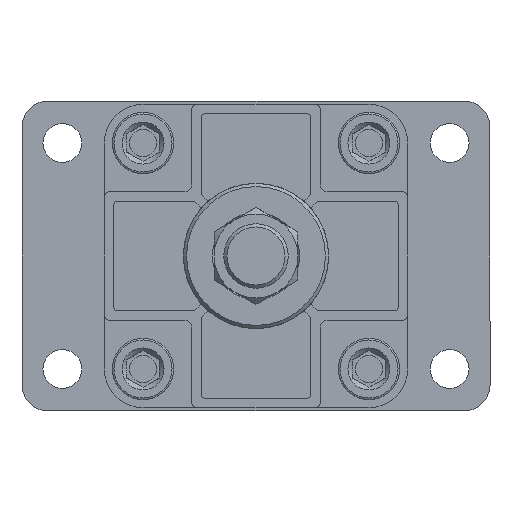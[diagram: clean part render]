
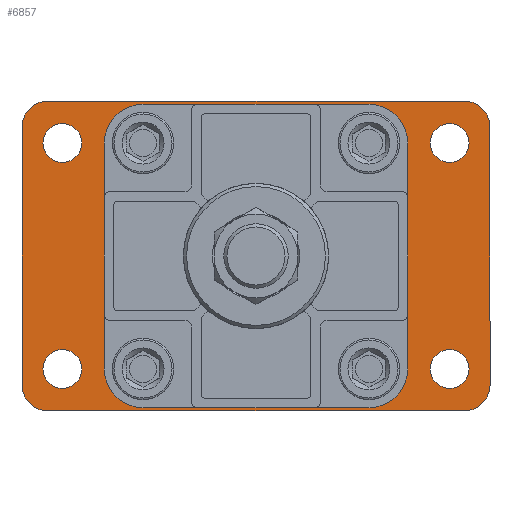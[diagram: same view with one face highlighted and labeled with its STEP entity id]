
A CAD part, front view. The second image highlights one B-rep face of the part: STEP entity #6857.
In plain terms, the highlighted planar face has unit normal (0, -1, 0) as drawn and (0, 1, 0) by its records, which use the part's own axes.
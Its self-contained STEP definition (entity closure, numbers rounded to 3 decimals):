
#594=LINE('',#10380,#984);
#598=LINE('',#10389,#988);
#602=LINE('',#10398,#992);
#604=LINE('',#10402,#994);
#984=VECTOR('',#8807,1000.);
#988=VECTOR('',#8813,1000.);
#992=VECTOR('',#8819,1000.);
#994=VECTOR('',#8823,1000.);
#2223=ORIENTED_EDGE('',*,*,#3000,.F.);
#2224=ORIENTED_EDGE('',*,*,#3001,.T.);
#2225=ORIENTED_EDGE('',*,*,#3002,.T.);
#2226=ORIENTED_EDGE('',*,*,#3003,.T.);
#2227=ORIENTED_EDGE('',*,*,#3004,.T.);
#2228=ORIENTED_EDGE('',*,*,#3005,.F.);
#2229=ORIENTED_EDGE('',*,*,#3006,.F.);
#2230=ORIENTED_EDGE('',*,*,#3007,.F.);
#2231=ORIENTED_EDGE('',*,*,#3008,.F.);
#2232=ORIENTED_EDGE('',*,*,#2973,.F.);
#2233=ORIENTED_EDGE('',*,*,#3009,.T.);
#2234=ORIENTED_EDGE('',*,*,#2983,.F.);
#2235=ORIENTED_EDGE('',*,*,#3010,.T.);
#2236=ORIENTED_EDGE('',*,*,#2981,.F.);
#2237=ORIENTED_EDGE('',*,*,#3011,.T.);
#2238=ORIENTED_EDGE('',*,*,#2977,.F.);
#2239=ORIENTED_EDGE('',*,*,#3012,.T.);
#2973=EDGE_CURVE('',#3483,#3484,#594,.T.);
#2977=EDGE_CURVE('',#3487,#3488,#598,.T.);
#2981=EDGE_CURVE('',#3491,#3492,#602,.T.);
#2983=EDGE_CURVE('',#3493,#3494,#604,.T.);
#3000=EDGE_CURVE('',#3506,#3506,#3778,.F.);
#3001=EDGE_CURVE('',#3507,#3507,#3779,.T.);
#3002=EDGE_CURVE('',#3508,#3508,#3780,.T.);
#3003=EDGE_CURVE('',#3509,#3509,#3781,.T.);
#3004=EDGE_CURVE('',#3510,#3510,#3782,.T.);
#3005=EDGE_CURVE('',#3511,#3511,#3783,.F.);
#3006=EDGE_CURVE('',#3512,#3512,#3784,.F.);
#3007=EDGE_CURVE('',#3513,#3513,#3785,.F.);
#3008=EDGE_CURVE('',#3514,#3514,#3786,.F.);
#3009=EDGE_CURVE('',#3483,#3494,#3787,.F.);
#3010=EDGE_CURVE('',#3493,#3492,#3788,.F.);
#3011=EDGE_CURVE('',#3491,#3488,#3789,.F.);
#3012=EDGE_CURVE('',#3487,#3484,#3790,.F.);
#3483=VERTEX_POINT('',#10379);
#3484=VERTEX_POINT('',#10381);
#3487=VERTEX_POINT('',#10388);
#3488=VERTEX_POINT('',#10390);
#3491=VERTEX_POINT('',#10397);
#3492=VERTEX_POINT('',#10399);
#3493=VERTEX_POINT('',#10403);
#3494=VERTEX_POINT('',#10404);
#3506=VERTEX_POINT('',#10435);
#3507=VERTEX_POINT('',#10437);
#3508=VERTEX_POINT('',#10439);
#3509=VERTEX_POINT('',#10441);
#3510=VERTEX_POINT('',#10443);
#3511=VERTEX_POINT('',#10445);
#3512=VERTEX_POINT('',#10447);
#3513=VERTEX_POINT('',#10449);
#3514=VERTEX_POINT('',#10451);
#3778=CIRCLE('',#7422,24.5);
#3779=CIRCLE('',#7423,5.5);
#3780=CIRCLE('',#7424,5.5);
#3781=CIRCLE('',#7425,5.5);
#3782=CIRCLE('',#7426,5.5);
#3783=CIRCLE('',#7427,6.);
#3784=CIRCLE('',#7428,6.);
#3785=CIRCLE('',#7429,6.);
#3786=CIRCLE('',#7430,6.);
#3787=CIRCLE('',#7431,8.);
#3788=CIRCLE('',#7432,8.);
#3789=CIRCLE('',#7433,8.);
#3790=CIRCLE('',#7434,8.);
#4158=EDGE_LOOP('',(#2223));
#4159=EDGE_LOOP('',(#2224));
#4160=EDGE_LOOP('',(#2225));
#4161=EDGE_LOOP('',(#2226));
#4162=EDGE_LOOP('',(#2227));
#4163=EDGE_LOOP('',(#2228));
#4164=EDGE_LOOP('',(#2229));
#4165=EDGE_LOOP('',(#2230));
#4166=EDGE_LOOP('',(#2231));
#4167=EDGE_LOOP('',(#2232,#2233,#2234,#2235,#2236,#2237,#2238,#2239));
#4578=FACE_BOUND('',#4158,.T.);
#4579=FACE_BOUND('',#4159,.T.);
#4580=FACE_BOUND('',#4160,.T.);
#4581=FACE_BOUND('',#4161,.T.);
#4582=FACE_BOUND('',#4162,.T.);
#4583=FACE_BOUND('',#4163,.T.);
#4584=FACE_BOUND('',#4164,.T.);
#4585=FACE_BOUND('',#4165,.T.);
#4586=FACE_BOUND('',#4166,.T.);
#4587=FACE_BOUND('',#4167,.T.);
#4800=PLANE('',#7421);
#6857=ADVANCED_FACE('',(#4578,#4579,#4580,#4581,#4582,#4583,#4584,#4585,
#4586,#4587),#4800,.F.);
#7421=AXIS2_PLACEMENT_3D('',#10433,#8855,#8856);
#7422=AXIS2_PLACEMENT_3D('',#10434,#8857,#8858);
#7423=AXIS2_PLACEMENT_3D('',#10436,#8859,#8860);
#7424=AXIS2_PLACEMENT_3D('',#10438,#8861,#8862);
#7425=AXIS2_PLACEMENT_3D('',#10440,#8863,#8864);
#7426=AXIS2_PLACEMENT_3D('',#10442,#8865,#8866);
#7427=AXIS2_PLACEMENT_3D('',#10444,#8867,#8868);
#7428=AXIS2_PLACEMENT_3D('',#10446,#8869,#8870);
#7429=AXIS2_PLACEMENT_3D('',#10448,#8871,#8872);
#7430=AXIS2_PLACEMENT_3D('',#10450,#8873,#8874);
#7431=AXIS2_PLACEMENT_3D('',#10452,#8875,#8876);
#7432=AXIS2_PLACEMENT_3D('',#10453,#8877,#8878);
#7433=AXIS2_PLACEMENT_3D('',#10454,#8879,#8880);
#7434=AXIS2_PLACEMENT_3D('',#10455,#8881,#8882);
#8807=DIRECTION('',(0.,0.,-1.));
#8813=DIRECTION('',(1.,0.,0.));
#8819=DIRECTION('',(0.,0.,1.));
#8823=DIRECTION('',(-1.,0.,0.));
#8855=DIRECTION('',(0.,-1.,0.));
#8856=DIRECTION('',(0.,0.,-1.));
#8857=DIRECTION('',(0.,-1.,0.));
#8858=DIRECTION('',(0.,0.,-1.));
#8859=DIRECTION('',(0.,-1.,0.));
#8860=DIRECTION('',(0.,0.,-1.));
#8861=DIRECTION('',(0.,-1.,0.));
#8862=DIRECTION('',(0.,0.,-1.));
#8863=DIRECTION('',(0.,-1.,0.));
#8864=DIRECTION('',(0.,0.,-1.));
#8865=DIRECTION('',(0.,-1.,0.));
#8866=DIRECTION('',(0.,0.,-1.));
#8867=DIRECTION('',(0.,-1.,0.));
#8868=DIRECTION('',(0.,0.,-1.));
#8869=DIRECTION('',(0.,-1.,0.));
#8870=DIRECTION('',(0.,0.,-1.));
#8871=DIRECTION('',(0.,-1.,0.));
#8872=DIRECTION('',(0.,0.,-1.));
#8873=DIRECTION('',(0.,-1.,0.));
#8874=DIRECTION('',(0.,0.,-1.));
#8875=DIRECTION('',(0.,-1.,0.));
#8876=DIRECTION('',(0.,0.,-1.));
#8877=DIRECTION('',(0.,-1.,0.));
#8878=DIRECTION('',(0.,0.,-1.));
#8879=DIRECTION('',(0.,-1.,0.));
#8880=DIRECTION('',(0.,0.,-1.));
#8881=DIRECTION('',(0.,-1.,0.));
#8882=DIRECTION('',(0.,0.,-1.));
#10379=CARTESIAN_POINT('',(-72.5,0.,40.));
#10380=CARTESIAN_POINT('',(-72.5,0.,28.));
#10381=CARTESIAN_POINT('',(-72.5,0.,-40.));
#10388=CARTESIAN_POINT('',(-64.5,0.,-48.));
#10389=CARTESIAN_POINT('',(-43.,0.,-48.));
#10390=CARTESIAN_POINT('',(64.5,0.,-48.));
#10397=CARTESIAN_POINT('',(72.5,0.,-40.));
#10398=CARTESIAN_POINT('',(72.5,0.,-28.));
#10399=CARTESIAN_POINT('',(72.5,0.,40.));
#10402=CARTESIAN_POINT('',(43.,0.,48.));
#10403=CARTESIAN_POINT('',(64.5,0.,48.));
#10404=CARTESIAN_POINT('',(-64.5,0.,48.));
#10433=CARTESIAN_POINT('',(0.,0.,0.));
#10434=CARTESIAN_POINT('',(0.,0.,0.));
#10435=CARTESIAN_POINT('',(0.,0.,-24.5));
#10436=CARTESIAN_POINT('',(-35.,0.,-35.));
#10437=CARTESIAN_POINT('',(-35.,0.,-40.5));
#10438=CARTESIAN_POINT('',(35.,0.,-35.));
#10439=CARTESIAN_POINT('',(35.,0.,-40.5));
#10440=CARTESIAN_POINT('',(35.,0.,35.));
#10441=CARTESIAN_POINT('',(35.,0.,29.5));
#10442=CARTESIAN_POINT('',(-35.,0.,35.));
#10443=CARTESIAN_POINT('',(-35.,0.,29.5));
#10444=CARTESIAN_POINT('',(60.,0.,-35.));
#10445=CARTESIAN_POINT('',(60.,0.,-41.));
#10446=CARTESIAN_POINT('',(-60.,0.,-35.));
#10447=CARTESIAN_POINT('',(-60.,0.,-41.));
#10448=CARTESIAN_POINT('',(-60.,0.,35.));
#10449=CARTESIAN_POINT('',(-60.,0.,29.));
#10450=CARTESIAN_POINT('',(60.,0.,35.));
#10451=CARTESIAN_POINT('',(60.,0.,29.));
#10452=CARTESIAN_POINT('',(-64.5,0.,40.));
#10453=CARTESIAN_POINT('',(64.5,0.,40.));
#10454=CARTESIAN_POINT('',(64.5,0.,-40.));
#10455=CARTESIAN_POINT('',(-64.5,0.,-40.));
